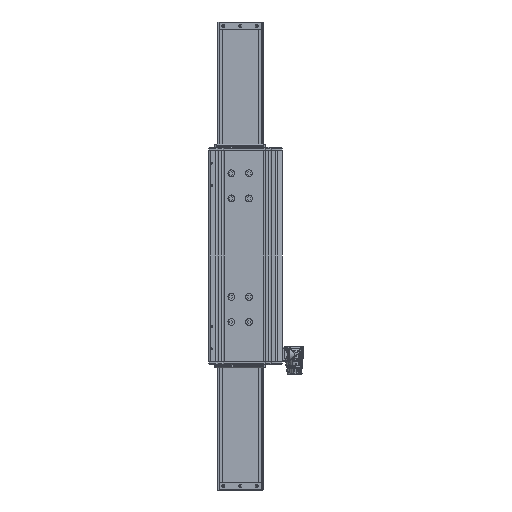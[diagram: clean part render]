
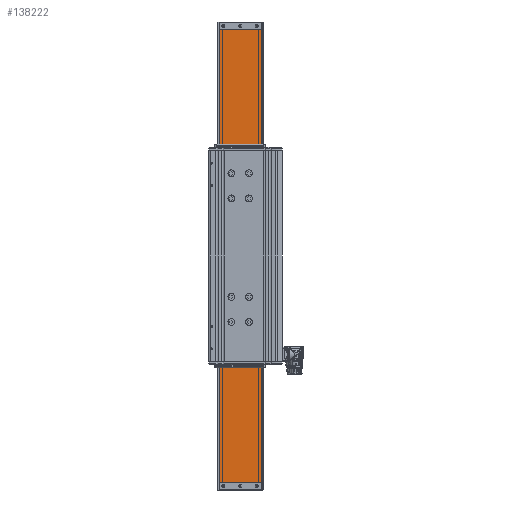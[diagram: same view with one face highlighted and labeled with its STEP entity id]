
A CAD part, front view. The second image highlights one B-rep face of the part: STEP entity #138222.
In plain terms, the highlighted planar face has unit normal (0, -1, 0) as drawn and (0, 1, 0) by its records, which use the part's own axes.
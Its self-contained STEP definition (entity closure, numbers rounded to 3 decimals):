
#32893 = VERTEX_POINT ( 'NONE', #135426 ) ;
#32895 = VERTEX_POINT ( 'NONE', #135427 ) ;
#32899 = VERTEX_POINT ( 'NONE', #135430 ) ;
#32903 = VERTEX_POINT ( 'NONE', #135434 ) ;
#84438 = EDGE_CURVE ( 'NONE', #32895, #32893, #128691, .T. ) ;
#84481 = EDGE_CURVE ( 'NONE', #32903, #32895, #201858, .T. ) ;
#84484 = EDGE_CURVE ( 'NONE', #32893, #32899, #201860, .T. ) ;
#84489 = EDGE_CURVE ( 'NONE', #32899, #32903, #201862, .T. ) ;
#94431 = ORIENTED_EDGE ( 'NONE', *, *, #84438, .T. ) ;
#94433 = ORIENTED_EDGE ( 'NONE', *, *, #84484, .T. ) ;
#94435 = ORIENTED_EDGE ( 'NONE', *, *, #84489, .T. ) ;
#94437 = ORIENTED_EDGE ( 'NONE', *, *, #84481, .T. ) ;
#100266 = AXIS2_PLACEMENT_3D ( 'NONE', #151764, #151778, #151780 ) ;
#128691 = LINE ( 'NONE', #199572, #128693 ) ;
#128693 = VECTOR ( 'NONE', #199574, 1000. ) ;
#129986 = FACE_OUTER_BOUND ( 'NONE', #165809, .T. ) ;
#135426 = CARTESIAN_POINT ( 'NONE',  ( -42., 26.152, 450. ) ) ;
#135427 = CARTESIAN_POINT ( 'NONE',  ( -42., 26.152, -450. ) ) ;
#135430 = CARTESIAN_POINT ( 'NONE',  ( 42., 26.152, 450. ) ) ;
#135434 = CARTESIAN_POINT ( 'NONE',  ( 42., 26.152, -450. ) ) ;
#138222 = ADVANCED_FACE ( 'NONE', ( #129986 ), #151766, .T. ) ;
#151764 = CARTESIAN_POINT ( 'NONE',  ( -42., 26.152, 450. ) ) ;
#151766 = PLANE ( 'NONE',  #100266 ) ;
#151778 = DIRECTION ( 'NONE',  ( 0., 1., 0. ) ) ;
#151780 = DIRECTION ( 'NONE',  ( 0., 0., 1. ) ) ;
#165809 = EDGE_LOOP ( 'NONE', ( #94431, #94433, #94435, #94437 ) ) ;
#199572 = CARTESIAN_POINT ( 'NONE',  ( -42., 26.152, -450. ) ) ;
#199574 = DIRECTION ( 'NONE',  ( 0., 0., 1. ) ) ;
#199693 = CARTESIAN_POINT ( 'NONE',  ( -42., 26.152, -450. ) ) ;
#199696 = DIRECTION ( 'NONE',  ( -1., 0., 0. ) ) ;
#199702 = CARTESIAN_POINT ( 'NONE',  ( -42., 26.152, 450. ) ) ;
#199705 = DIRECTION ( 'NONE',  ( 1., 0., 0. ) ) ;
#199711 = CARTESIAN_POINT ( 'NONE',  ( 42., 26.152, -450. ) ) ;
#199714 = DIRECTION ( 'NONE',  ( 0., 0., -1. ) ) ;
#201858 = LINE ( 'NONE', #199693, #201859 ) ;
#201859 = VECTOR ( 'NONE', #199696, 1000. ) ;
#201860 = LINE ( 'NONE', #199702, #201861 ) ;
#201861 = VECTOR ( 'NONE', #199705, 1000. ) ;
#201862 = LINE ( 'NONE', #199711, #201863 ) ;
#201863 = VECTOR ( 'NONE', #199714, 1000. ) ;
